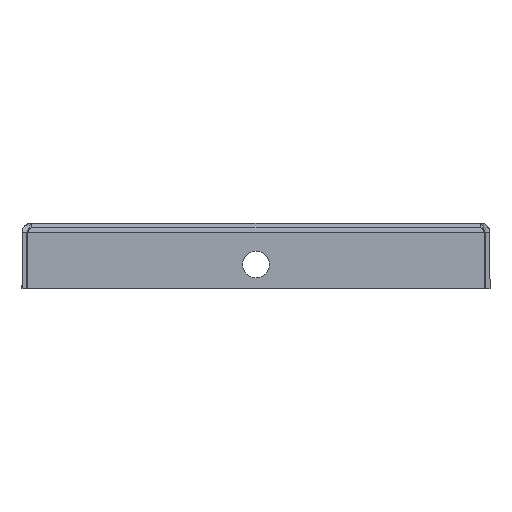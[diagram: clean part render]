
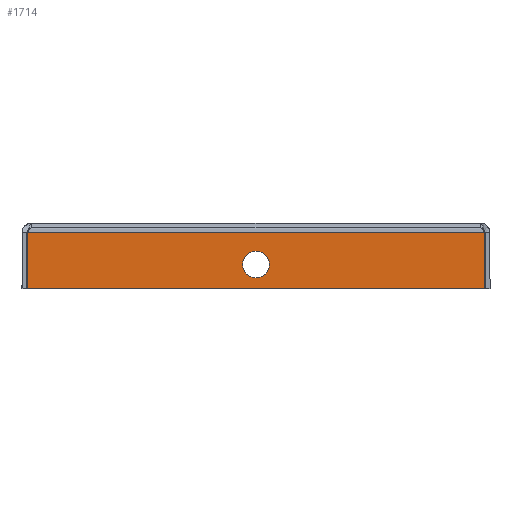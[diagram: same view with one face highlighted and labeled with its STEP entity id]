
A CAD part, front view. The second image highlights one B-rep face of the part: STEP entity #1714.
In plain terms, the highlighted planar face has unit normal (0, -1, 0).
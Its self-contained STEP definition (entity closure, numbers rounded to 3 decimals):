
#6 = LINE ( 'NONE', #933, #235 ) ;
#71 = EDGE_LOOP ( 'NONE', ( #477, #1259, #455, #1601 ) ) ;
#79 = FACE_OUTER_BOUND ( 'NONE', #71, .T. ) ;
#161 = EDGE_CURVE ( 'NONE', #1892, #356, #6, .T. ) ;
#191 = CARTESIAN_POINT ( 'NONE',  ( 48., 0., -10.25 ) ) ;
#197 = CARTESIAN_POINT ( 'NONE',  ( 48., 0., -4.75 ) ) ;
#211 = DIRECTION ( 'NONE',  ( 0., 0., 1. ) ) ;
#235 = VECTOR ( 'NONE', #2001, 1000. ) ;
#311 = CARTESIAN_POINT ( 'NONE',  ( 2., 0., 0. ) ) ;
#356 = VERTEX_POINT ( 'NONE', #1330 ) ;
#377 = CARTESIAN_POINT ( 'NONE',  ( 94., 0., -1. ) ) ;
#416 = VECTOR ( 'NONE', #771, 1000. ) ;
#431 = DIRECTION ( 'NONE',  ( 0., 0., 1. ) ) ;
#455 = ORIENTED_EDGE ( 'NONE', *, *, #606, .T. ) ;
#460 = VECTOR ( 'NONE', #1441, 1000. ) ;
#477 = ORIENTED_EDGE ( 'NONE', *, *, #2317, .F. ) ;
#480 = VERTEX_POINT ( 'NONE', #1014 ) ;
#574 = EDGE_LOOP ( 'NONE', ( #936, #1863 ) ) ;
#606 = EDGE_CURVE ( 'NONE', #480, #356, #1121, .T. ) ;
#739 = CARTESIAN_POINT ( 'NONE',  ( 94.9, 0., -1. ) ) ;
#771 = DIRECTION ( 'NONE',  ( 1., 0., 0. ) ) ;
#784 = DIRECTION ( 'NONE',  ( 1., 0., 0. ) ) ;
#799 = DIRECTION ( 'NONE',  ( 0., 1., 0. ) ) ;
#887 = FACE_BOUND ( 'NONE', #574, .T. ) ;
#933 = CARTESIAN_POINT ( 'NONE',  ( 94.9, 0., -1. ) ) ;
#936 = ORIENTED_EDGE ( 'NONE', *, *, #2102, .T. ) ;
#1014 = CARTESIAN_POINT ( 'NONE',  ( 1.1, 0., -12.5 ) ) ;
#1023 = DIRECTION ( 'NONE',  ( 0., 1., 0. ) ) ;
#1107 = PLANE ( 'NONE',  #2141 ) ;
#1121 = LINE ( 'NONE', #1865, #416 ) ;
#1248 = DIRECTION ( 'NONE',  ( 0., 0., 1. ) ) ;
#1259 = ORIENTED_EDGE ( 'NONE', *, *, #1383, .T. ) ;
#1274 = CARTESIAN_POINT ( 'NONE',  ( 1.1, 0., -1. ) ) ;
#1330 = CARTESIAN_POINT ( 'NONE',  ( 94.9, 0., -12.5 ) ) ;
#1367 = CARTESIAN_POINT ( 'NONE',  ( 48., 0., -7.5 ) ) ;
#1383 = EDGE_CURVE ( 'NONE', #2107, #480, #1494, .T. ) ;
#1441 = DIRECTION ( 'NONE',  ( 0., 0., -1. ) ) ;
#1494 = LINE ( 'NONE', #1274, #460 ) ;
#1601 = ORIENTED_EDGE ( 'NONE', *, *, #161, .F. ) ;
#1660 = VERTEX_POINT ( 'NONE', #197 ) ;
#1714 = ADVANCED_FACE ( 'NONE', ( #887, #79 ), #1107, .F. ) ;
#1821 = DIRECTION ( 'NONE',  ( 0., 1., 0. ) ) ;
#1857 = CIRCLE ( 'NONE', #1867, 2.75 ) ;
#1863 = ORIENTED_EDGE ( 'NONE', *, *, #2086, .T. ) ;
#1865 = CARTESIAN_POINT ( 'NONE',  ( 2., 0., -12.5 ) ) ;
#1867 = AXIS2_PLACEMENT_3D ( 'NONE', #2258, #1023, #431 ) ;
#1892 = VERTEX_POINT ( 'NONE', #739 ) ;
#2001 = DIRECTION ( 'NONE',  ( 0., 0., -1. ) ) ;
#2052 = VERTEX_POINT ( 'NONE', #191 ) ;
#2069 = CARTESIAN_POINT ( 'NONE',  ( 1.1, 0., -1. ) ) ;
#2086 = EDGE_CURVE ( 'NONE', #2052, #1660, #1857, .T. ) ;
#2100 = CIRCLE ( 'NONE', #2112, 2.75 ) ;
#2102 = EDGE_CURVE ( 'NONE', #1660, #2052, #2100, .T. ) ;
#2107 = VERTEX_POINT ( 'NONE', #2069 ) ;
#2112 = AXIS2_PLACEMENT_3D ( 'NONE', #1367, #799, #211 ) ;
#2141 = AXIS2_PLACEMENT_3D ( 'NONE', #311, #1821, #1248 ) ;
#2169 = VECTOR ( 'NONE', #784, 1000. ) ;
#2258 = CARTESIAN_POINT ( 'NONE',  ( 48., 0., -7.5 ) ) ;
#2317 = EDGE_CURVE ( 'NONE', #2107, #1892, #2386, .T. ) ;
#2386 = LINE ( 'NONE', #377, #2169 ) ;
